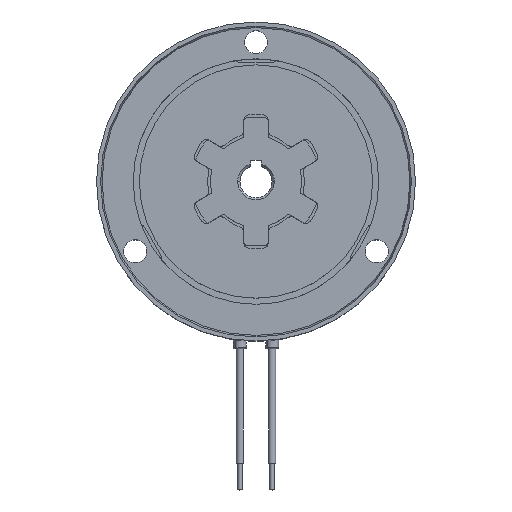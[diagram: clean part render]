
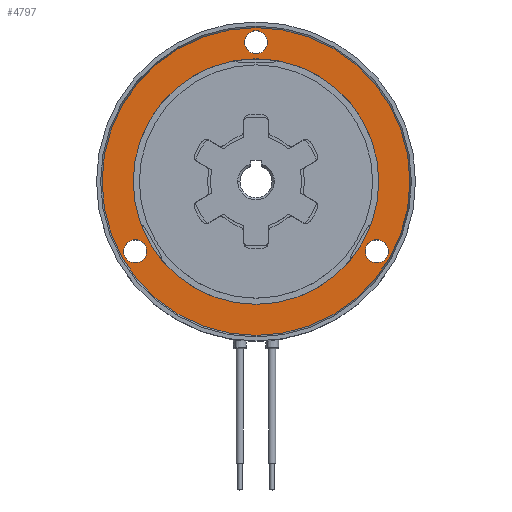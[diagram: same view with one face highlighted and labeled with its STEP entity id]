
A CAD part, top view. The second image highlights one B-rep face of the part: STEP entity #4797.
In plain terms, the highlighted planar face has unit normal (0, 0, 1).
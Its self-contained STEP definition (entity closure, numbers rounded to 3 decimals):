
#155 = DIRECTION ( 'NONE',  ( 0., 0., 1. ) ) ;
#275 = VERTEX_POINT ( 'NONE', #9527 ) ;
#425 = DIRECTION ( 'NONE',  ( 0., 0., -1. ) ) ;
#604 = CARTESIAN_POINT ( 'NONE',  ( 20.367, -13., 0. ) ) ;
#658 = CIRCLE ( 'NONE', #15936, 2.15 ) ;
#748 = AXIS2_PLACEMENT_3D ( 'NONE', #10551, #12146, #1058 ) ;
#772 = DIRECTION ( 'NONE',  ( 1., 0., 0. ) ) ;
#1006 = CIRCLE ( 'NONE', #16867, 2.15 ) ;
#1016 = CIRCLE ( 'NONE', #16594, 22.9 ) ;
#1051 = EDGE_CURVE ( 'NONE', #13583, #10293, #658, .T. ) ;
#1058 = DIRECTION ( 'NONE',  ( -1., 0., 0. ) ) ;
#1344 = DIRECTION ( 'NONE',  ( 0., 0., -1. ) ) ;
#1452 = EDGE_LOOP ( 'NONE', ( #8549, #16398 ) ) ;
#1736 = AXIS2_PLACEMENT_3D ( 'NONE', #9432, #12196, #8089 ) ;
#1836 = DIRECTION ( 'NONE',  ( -1., 0., 0. ) ) ;
#1899 = ORIENTED_EDGE ( 'NONE', *, *, #6948, .T. ) ;
#1965 = CARTESIAN_POINT ( 'NONE',  ( -24.667, -13., 0. ) ) ;
#2714 = CARTESIAN_POINT ( 'NONE',  ( 0., 0., 0. ) ) ;
#2790 = CARTESIAN_POINT ( 'NONE',  ( 0., 28.7, 0. ) ) ;
#2798 = CARTESIAN_POINT ( 'NONE',  ( 28.7, 0., 0. ) ) ;
#2818 = DIRECTION ( 'NONE',  ( 0., 0., 1. ) ) ;
#3248 = DIRECTION ( 'NONE',  ( 0., 0., 1. ) ) ;
#3251 = CARTESIAN_POINT ( 'NONE',  ( 22.9, 0., 0. ) ) ;
#3595 = FACE_BOUND ( 'NONE', #15645, .T. ) ;
#3709 = VERTEX_POINT ( 'NONE', #14564 ) ;
#3939 = DIRECTION ( 'NONE',  ( 0., 0., -1. ) ) ;
#4104 = CARTESIAN_POINT ( 'NONE',  ( -2.15, 26., 0. ) ) ;
#4142 = CIRCLE ( 'NONE', #748, 2.15 ) ;
#4738 = CARTESIAN_POINT ( 'NONE',  ( 0., 0., 0. ) ) ;
#4797 = ADVANCED_FACE ( 'NONE', ( #3595, #13083, #14149, #12827, #6339 ), #7924, .F. ) ;
#5034 = CARTESIAN_POINT ( 'NONE',  ( 0., 26., 0. ) ) ;
#5092 = CIRCLE ( 'NONE', #5670, 22.9 ) ;
#5197 = VERTEX_POINT ( 'NONE', #1965 ) ;
#5292 = DIRECTION ( 'NONE',  ( 0., 0., -1. ) ) ;
#5409 = DIRECTION ( 'NONE',  ( -1., 0., 0. ) ) ;
#5560 = CARTESIAN_POINT ( 'NONE',  ( 0., 0., 0. ) ) ;
#5670 = AXIS2_PLACEMENT_3D ( 'NONE', #4738, #8820, #772 ) ;
#5999 = ORIENTED_EDGE ( 'NONE', *, *, #1051, .T. ) ;
#6339 = FACE_OUTER_BOUND ( 'NONE', #7451, .T. ) ;
#6565 = CARTESIAN_POINT ( 'NONE',  ( -22.517, -13., 0. ) ) ;
#6948 = EDGE_CURVE ( 'NONE', #3709, #5197, #1006, .T. ) ;
#7356 = EDGE_CURVE ( 'NONE', #12248, #10885, #1016, .T. ) ;
#7451 = EDGE_LOOP ( 'NONE', ( #8344, #13461 ) ) ;
#7843 = EDGE_LOOP ( 'NONE', ( #14137, #10903 ) ) ;
#7924 = PLANE ( 'NONE',  #15025 ) ;
#7943 = DIRECTION ( 'NONE',  ( -1., 0., 0. ) ) ;
#8089 = DIRECTION ( 'NONE',  ( -1., 0., 0. ) ) ;
#8113 = CIRCLE ( 'NONE', #10121, 28.7 ) ;
#8344 = ORIENTED_EDGE ( 'NONE', *, *, #16659, .T. ) ;
#8549 = ORIENTED_EDGE ( 'NONE', *, *, #8626, .F. ) ;
#8626 = EDGE_CURVE ( 'NONE', #10885, #12248, #5092, .T. ) ;
#8692 = CARTESIAN_POINT ( 'NONE',  ( -28.7, 0., 0. ) ) ;
#8693 = CIRCLE ( 'NONE', #10134, 28.7 ) ;
#8820 = DIRECTION ( 'NONE',  ( 0., 0., 1. ) ) ;
#9432 = CARTESIAN_POINT ( 'NONE',  ( 22.517, -13., 0. ) ) ;
#9527 = CARTESIAN_POINT ( 'NONE',  ( 24.667, -13., 0. ) ) ;
#9548 = EDGE_CURVE ( 'NONE', #9915, #275, #4142, .T. ) ;
#9653 = EDGE_CURVE ( 'NONE', #5197, #3709, #10081, .T. ) ;
#9915 = VERTEX_POINT ( 'NONE', #604 ) ;
#9969 = CARTESIAN_POINT ( 'NONE',  ( 2.15, 26., 0. ) ) ;
#9992 = CARTESIAN_POINT ( 'NONE',  ( -22.517, -13., 0. ) ) ;
#10002 = DIRECTION ( 'NONE',  ( 1., 0., 0. ) ) ;
#10081 = CIRCLE ( 'NONE', #16877, 2.15 ) ;
#10121 = AXIS2_PLACEMENT_3D ( 'NONE', #11255, #3248, #10002 ) ;
#10131 = VERTEX_POINT ( 'NONE', #2798 ) ;
#10134 = AXIS2_PLACEMENT_3D ( 'NONE', #2714, #155, #16467 ) ;
#10293 = VERTEX_POINT ( 'NONE', #9969 ) ;
#10460 = DIRECTION ( 'NONE',  ( 0., 0., -1. ) ) ;
#10551 = CARTESIAN_POINT ( 'NONE',  ( 22.517, -13., 0. ) ) ;
#10587 = CARTESIAN_POINT ( 'NONE',  ( -22.9, 0., 0. ) ) ;
#10885 = VERTEX_POINT ( 'NONE', #3251 ) ;
#10903 = ORIENTED_EDGE ( 'NONE', *, *, #15356, .T. ) ;
#11255 = CARTESIAN_POINT ( 'NONE',  ( 0., 0., 0. ) ) ;
#11292 = EDGE_CURVE ( 'NONE', #10293, #13583, #16427, .T. ) ;
#12146 = DIRECTION ( 'NONE',  ( 0., 0., -1. ) ) ;
#12196 = DIRECTION ( 'NONE',  ( 0., 0., -1. ) ) ;
#12248 = VERTEX_POINT ( 'NONE', #10587 ) ;
#12267 = EDGE_LOOP ( 'NONE', ( #5999, #14961 ) ) ;
#12572 = VERTEX_POINT ( 'NONE', #8692 ) ;
#12827 = FACE_BOUND ( 'NONE', #1452, .T. ) ;
#13083 = FACE_BOUND ( 'NONE', #7843, .T. ) ;
#13262 = DIRECTION ( 'NONE',  ( -1., 0., 0. ) ) ;
#13461 = ORIENTED_EDGE ( 'NONE', *, *, #16937, .T. ) ;
#13583 = VERTEX_POINT ( 'NONE', #4104 ) ;
#13721 = DIRECTION ( 'NONE',  ( 1., 0., 0. ) ) ;
#14137 = ORIENTED_EDGE ( 'NONE', *, *, #9548, .T. ) ;
#14149 = FACE_BOUND ( 'NONE', #12267, .T. ) ;
#14564 = CARTESIAN_POINT ( 'NONE',  ( -20.367, -13., 0. ) ) ;
#14961 = ORIENTED_EDGE ( 'NONE', *, *, #11292, .T. ) ;
#15025 = AXIS2_PLACEMENT_3D ( 'NONE', #2790, #3939, #13262 ) ;
#15356 = EDGE_CURVE ( 'NONE', #275, #9915, #17315, .T. ) ;
#15645 = EDGE_LOOP ( 'NONE', ( #16736, #1899 ) ) ;
#15936 = AXIS2_PLACEMENT_3D ( 'NONE', #17448, #5292, #7943 ) ;
#16398 = ORIENTED_EDGE ( 'NONE', *, *, #7356, .F. ) ;
#16427 = CIRCLE ( 'NONE', #17266, 2.15 ) ;
#16467 = DIRECTION ( 'NONE',  ( 1., 0., 0. ) ) ;
#16594 = AXIS2_PLACEMENT_3D ( 'NONE', #5560, #2818, #13721 ) ;
#16659 = EDGE_CURVE ( 'NONE', #10131, #12572, #8113, .T. ) ;
#16736 = ORIENTED_EDGE ( 'NONE', *, *, #9653, .T. ) ;
#16867 = AXIS2_PLACEMENT_3D ( 'NONE', #6565, #1344, #5409 ) ;
#16877 = AXIS2_PLACEMENT_3D ( 'NONE', #9992, #425, #1836 ) ;
#16937 = EDGE_CURVE ( 'NONE', #12572, #10131, #8693, .T. ) ;
#17266 = AXIS2_PLACEMENT_3D ( 'NONE', #5034, #10460, #17283 ) ;
#17283 = DIRECTION ( 'NONE',  ( -1., 0., 0. ) ) ;
#17315 = CIRCLE ( 'NONE', #1736, 2.15 ) ;
#17448 = CARTESIAN_POINT ( 'NONE',  ( 0., 26., 0. ) ) ;
